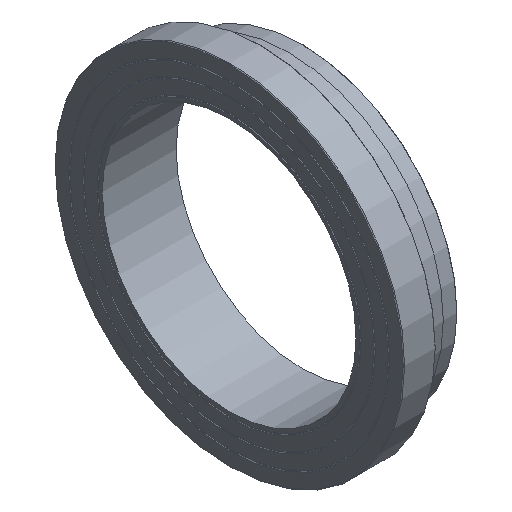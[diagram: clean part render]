
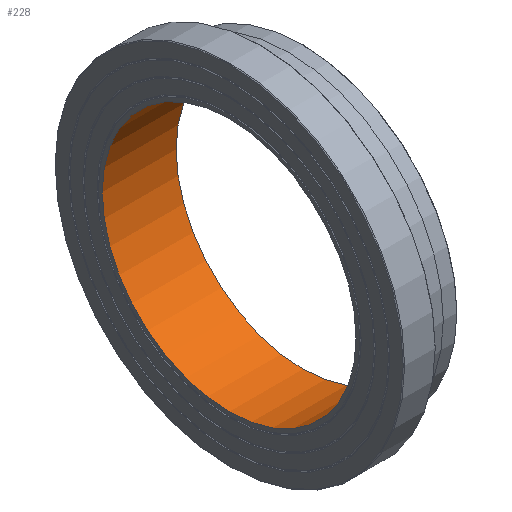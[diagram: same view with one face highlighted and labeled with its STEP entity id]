
A CAD part, isometric view. The second image highlights one B-rep face of the part: STEP entity #228.
In plain terms, the highlighted cylindrical face has radius 257.8 mm (diameter 515.6 mm), a full revolution.
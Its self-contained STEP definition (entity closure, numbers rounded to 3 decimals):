
#33=CYLINDRICAL_SURFACE('',#274,257.8);
#50=ORIENTED_EDGE('',*,*,#79,.F.);
#51=ORIENTED_EDGE('',*,*,#76,.T.);
#76=EDGE_CURVE('',#96,#96,#116,.T.);
#79=EDGE_CURVE('',#99,#99,#119,.T.);
#96=VERTEX_POINT('',#383);
#99=VERTEX_POINT('',#390);
#116=CIRCLE('',#257,257.8);
#119=CIRCLE('',#261,257.8);
#150=EDGE_LOOP('',(#50));
#151=EDGE_LOOP('',(#51));
#190=FACE_BOUND('',#150,.T.);
#191=FACE_BOUND('',#151,.T.);
#228=ADVANCED_FACE('',(#190,#191),#33,.F.);
#257=AXIS2_PLACEMENT_3D('',#382,#303,#304);
#261=AXIS2_PLACEMENT_3D('',#389,#311,#312);
#274=AXIS2_PLACEMENT_3D('',#410,#337,#338);
#303=DIRECTION('',(-1.,0.,0.));
#304=DIRECTION('',(0.,0.,1.));
#311=DIRECTION('',(-1.,0.,0.));
#312=DIRECTION('',(0.,0.,1.));
#337=DIRECTION('',(-1.,0.,0.));
#338=DIRECTION('',(0.,0.,1.));
#382=CARTESIAN_POINT('',(0.,0.,0.));
#383=CARTESIAN_POINT('',(0.,0.,257.8));
#389=CARTESIAN_POINT('',(150.,0.,0.));
#390=CARTESIAN_POINT('',(150.,0.,257.8));
#410=CARTESIAN_POINT('',(60.,0.,0.));
